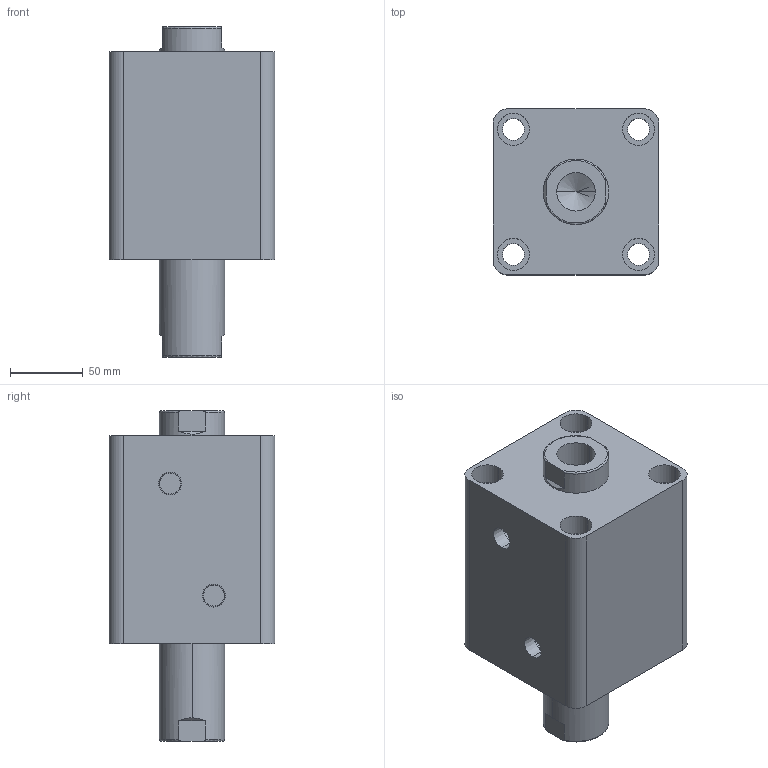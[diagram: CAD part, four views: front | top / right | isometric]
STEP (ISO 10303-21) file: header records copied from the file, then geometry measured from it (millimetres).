
FILE_DESCRIPTION (( 'STEP AP203' ), '1' );
FILE_NAME ('HTB-SW80-50N.STEP', '2019-10-07T10:23:00', ( '微软用户' ), ( '微软中国' ), 'SwSTEP 2.0', 'SolidWorks 2012', '' );
FILE_SCHEMA (( 'CONFIG_CONTROL_DESIGN' ));
Length unit declared in the file: millimetre
Products named in the file (3): HTB-SW80-50N; HTB-SW80-50N活塞杆; HTB-SW80-50掛极
Assembly tree (2 placements, depth 2):
  HTB-SW80-50N
    HTB-SW80-50掛极
    HTB-SW80-50N活塞杆
Bounding box: 114 x 114 x 227 mm (x, y, z)
Volume: 1646386.2 mm3; surface area: 200394.3 mm2
Topology: 2 solids, 2 shells, 100 faces, 228 edges, 146 vertices
Faces by surface type: cylinder 48, plane 32, torus 12, cone 8
Entity records: 3237 total; most frequent: CARTESIAN_POINT 595, DIRECTION 542, ORIENTED_EDGE 448, AXIS2_PLACEMENT_3D 229, EDGE_CURVE 224, VERTEX_POINT 146, EDGE_LOOP 128, CIRCLE 124
